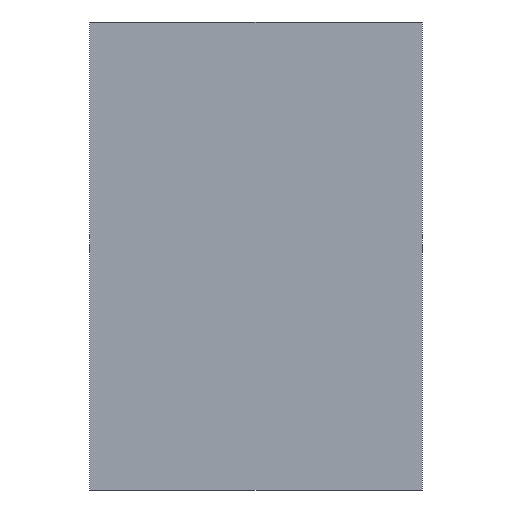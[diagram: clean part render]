
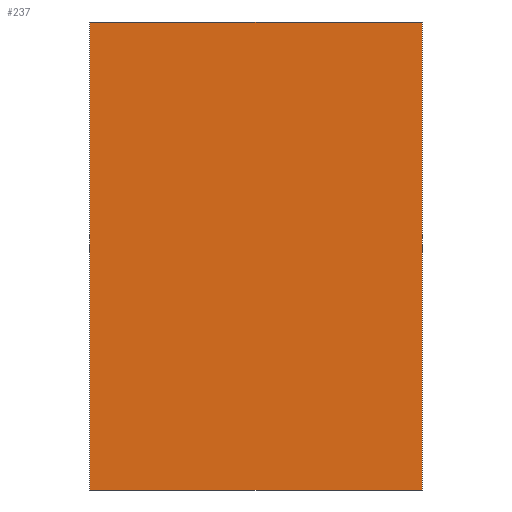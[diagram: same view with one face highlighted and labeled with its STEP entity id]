
A CAD part, front view. The second image highlights one B-rep face of the part: STEP entity #237.
In plain terms, the highlighted planar face has unit normal (0, -1, 0).
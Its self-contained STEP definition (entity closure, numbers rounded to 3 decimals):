
#21 = EDGE_CURVE('',#22,#24,#26,.T.);
#22 = VERTEX_POINT('',#23);
#23 = CARTESIAN_POINT('',(-35.1,41.6,-8.65));
#24 = VERTEX_POINT('',#25);
#25 = CARTESIAN_POINT('',(-35.1,41.6,-5.55));
#26 = SURFACE_CURVE('',#27,(#31,#43),.PCURVE_S1.);
#27 = LINE('',#28,#29);
#28 = CARTESIAN_POINT('',(-35.1,41.6,-8.65));
#29 = VECTOR('',#30,1.);
#30 = DIRECTION('',(0.,0.,1.));
#31 = PCURVE('',#32,#37);
#32 = PLANE('',#33);
#33 = AXIS2_PLACEMENT_3D('',#34,#35,#36);
#34 = CARTESIAN_POINT('',(-35.1,41.6,-8.65));
#35 = DIRECTION('',(1.,0.,-0.));
#36 = DIRECTION('',(0.,0.,1.));
#37 = DEFINITIONAL_REPRESENTATION('',(#38),#42);
#38 = LINE('',#39,#40);
#39 = CARTESIAN_POINT('',(0.,0.));
#40 = VECTOR('',#41,1.);
#41 = DIRECTION('',(1.,0.));
#42 = ( GEOMETRIC_REPRESENTATION_CONTEXT(2) 
PARAMETRIC_REPRESENTATION_CONTEXT() REPRESENTATION_CONTEXT('2D SPACE',''
  ) );
#43 = PCURVE('',#44,#49);
#44 = PLANE('',#45);
#45 = AXIS2_PLACEMENT_3D('',#46,#47,#48);
#46 = CARTESIAN_POINT('',(-35.1,41.6,-8.65));
#47 = DIRECTION('',(-0.,1.,0.));
#48 = DIRECTION('',(0.,0.,1.));
#49 = DEFINITIONAL_REPRESENTATION('',(#50),#54);
#50 = LINE('',#51,#52);
#51 = CARTESIAN_POINT('',(0.,0.));
#52 = VECTOR('',#53,1.);
#53 = DIRECTION('',(1.,0.));
#54 = ( GEOMETRIC_REPRESENTATION_CONTEXT(2) 
PARAMETRIC_REPRESENTATION_CONTEXT() REPRESENTATION_CONTEXT('2D SPACE',''
  ) );
#72 = PLANE('',#73);
#73 = AXIS2_PLACEMENT_3D('',#74,#75,#76);
#74 = CARTESIAN_POINT('',(-35.1,41.6,-8.65));
#75 = DIRECTION('',(0.,0.,1.));
#76 = DIRECTION('',(1.,0.,-0.));
#126 = PLANE('',#127);
#127 = AXIS2_PLACEMENT_3D('',#128,#129,#130);
#128 = CARTESIAN_POINT('',(-35.1,41.6,-5.55));
#129 = DIRECTION('',(0.,0.,1.));
#130 = DIRECTION('',(1.,0.,-0.));
#141 = EDGE_CURVE('',#142,#144,#146,.T.);
#142 = VERTEX_POINT('',#143);
#143 = CARTESIAN_POINT('',(-32.9,41.6,-8.65));
#144 = VERTEX_POINT('',#145);
#145 = CARTESIAN_POINT('',(-32.9,41.6,-5.55));
#146 = SURFACE_CURVE('',#147,(#151,#163),.PCURVE_S1.);
#147 = LINE('',#148,#149);
#148 = CARTESIAN_POINT('',(-32.9,41.6,-8.65));
#149 = VECTOR('',#150,1.);
#150 = DIRECTION('',(0.,0.,1.));
#151 = PCURVE('',#152,#157);
#152 = PLANE('',#153);
#153 = AXIS2_PLACEMENT_3D('',#154,#155,#156);
#154 = CARTESIAN_POINT('',(-32.9,41.6,-8.65));
#155 = DIRECTION('',(1.,0.,-0.));
#156 = DIRECTION('',(0.,0.,1.));
#157 = DEFINITIONAL_REPRESENTATION('',(#158),#162);
#158 = LINE('',#159,#160);
#159 = CARTESIAN_POINT('',(0.,0.));
#160 = VECTOR('',#161,1.);
#161 = DIRECTION('',(1.,0.));
#162 = ( GEOMETRIC_REPRESENTATION_CONTEXT(2) 
PARAMETRIC_REPRESENTATION_CONTEXT() REPRESENTATION_CONTEXT('2D SPACE',''
  ) );
#163 = PCURVE('',#44,#164);
#164 = DEFINITIONAL_REPRESENTATION('',(#165),#169);
#165 = LINE('',#166,#167);
#166 = CARTESIAN_POINT('',(0.,2.2));
#167 = VECTOR('',#168,1.);
#168 = DIRECTION('',(1.,0.));
#169 = ( GEOMETRIC_REPRESENTATION_CONTEXT(2) 
PARAMETRIC_REPRESENTATION_CONTEXT() REPRESENTATION_CONTEXT('2D SPACE',''
  ) );
#237 = ADVANCED_FACE('',(#238),#44,.F.);
#238 = FACE_BOUND('',#239,.F.);
#239 = EDGE_LOOP('',(#240,#261,#262,#283));
#240 = ORIENTED_EDGE('',*,*,#241,.F.);
#241 = EDGE_CURVE('',#22,#142,#242,.T.);
#242 = SURFACE_CURVE('',#243,(#247,#254),.PCURVE_S1.);
#243 = LINE('',#244,#245);
#244 = CARTESIAN_POINT('',(-35.1,41.6,-8.65));
#245 = VECTOR('',#246,1.);
#246 = DIRECTION('',(1.,0.,-0.));
#247 = PCURVE('',#44,#248);
#248 = DEFINITIONAL_REPRESENTATION('',(#249),#253);
#249 = LINE('',#250,#251);
#250 = CARTESIAN_POINT('',(0.,0.));
#251 = VECTOR('',#252,1.);
#252 = DIRECTION('',(0.,1.));
#253 = ( GEOMETRIC_REPRESENTATION_CONTEXT(2) 
PARAMETRIC_REPRESENTATION_CONTEXT() REPRESENTATION_CONTEXT('2D SPACE',''
  ) );
#254 = PCURVE('',#72,#255);
#255 = DEFINITIONAL_REPRESENTATION('',(#256),#260);
#256 = LINE('',#257,#258);
#257 = CARTESIAN_POINT('',(0.,0.));
#258 = VECTOR('',#259,1.);
#259 = DIRECTION('',(1.,0.));
#260 = ( GEOMETRIC_REPRESENTATION_CONTEXT(2) 
PARAMETRIC_REPRESENTATION_CONTEXT() REPRESENTATION_CONTEXT('2D SPACE',''
  ) );
#261 = ORIENTED_EDGE('',*,*,#21,.T.);
#262 = ORIENTED_EDGE('',*,*,#263,.T.);
#263 = EDGE_CURVE('',#24,#144,#264,.T.);
#264 = SURFACE_CURVE('',#265,(#269,#276),.PCURVE_S1.);
#265 = LINE('',#266,#267);
#266 = CARTESIAN_POINT('',(-35.1,41.6,-5.55));
#267 = VECTOR('',#268,1.);
#268 = DIRECTION('',(1.,0.,-0.));
#269 = PCURVE('',#44,#270);
#270 = DEFINITIONAL_REPRESENTATION('',(#271),#275);
#271 = LINE('',#272,#273);
#272 = CARTESIAN_POINT('',(3.1,0.));
#273 = VECTOR('',#274,1.);
#274 = DIRECTION('',(0.,1.));
#275 = ( GEOMETRIC_REPRESENTATION_CONTEXT(2) 
PARAMETRIC_REPRESENTATION_CONTEXT() REPRESENTATION_CONTEXT('2D SPACE',''
  ) );
#276 = PCURVE('',#126,#277);
#277 = DEFINITIONAL_REPRESENTATION('',(#278),#282);
#278 = LINE('',#279,#280);
#279 = CARTESIAN_POINT('',(0.,0.));
#280 = VECTOR('',#281,1.);
#281 = DIRECTION('',(1.,0.));
#282 = ( GEOMETRIC_REPRESENTATION_CONTEXT(2) 
PARAMETRIC_REPRESENTATION_CONTEXT() REPRESENTATION_CONTEXT('2D SPACE',''
  ) );
#283 = ORIENTED_EDGE('',*,*,#141,.F.);
